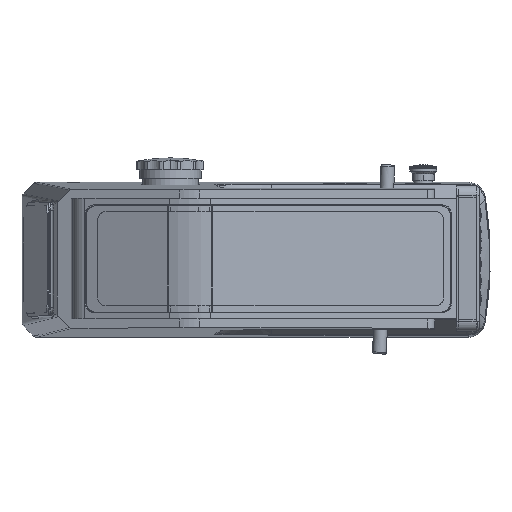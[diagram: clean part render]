
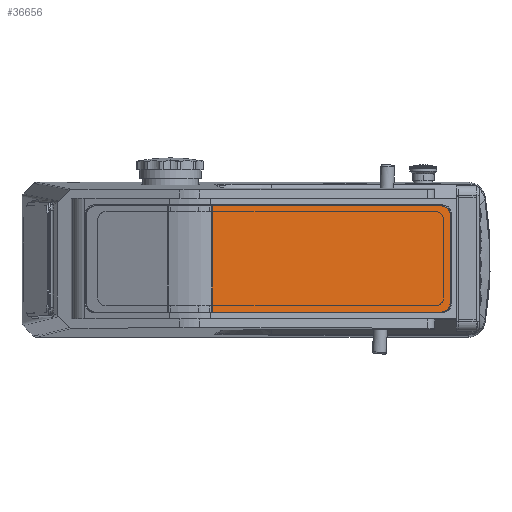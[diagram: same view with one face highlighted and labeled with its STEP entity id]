
A CAD part, top view. The second image highlights one B-rep face of the part: STEP entity #36656.
In plain terms, the highlighted planar face has unit normal (0.177, 0, 0.984) as drawn and (0.177, -0.984, 0) by its records, which use the part's own axes.
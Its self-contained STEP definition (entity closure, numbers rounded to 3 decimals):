
#36387=DIRECTION('',(0.984,0.177,0.));
#36388=VECTOR('',#36387,269.914);
#36389=CARTESIAN_POINT('',(-22.966,-67.873,62.));
#36390=LINE('',#36389,#36388);
#36421=CARTESIAN_POINT('',(242.663,-19.966,-62.));
#36422=CARTESIAN_POINT('',(244.645,-19.608,-62.));
#36423=CARTESIAN_POINT('',(247.763,-19.046,
-61.141));
#36424=CARTESIAN_POINT('',(251.288,-18.41,
-58.68));
#36425=CARTESIAN_POINT('',(253.762,-17.964,
-55.152));
#36426=CARTESIAN_POINT('',(254.638,-17.806,
-52.014));
#36427=CARTESIAN_POINT('',(254.638,-17.806,-50.));
#36429=CARTESIAN_POINT('',(254.638,-17.806,50.));
#36430=CARTESIAN_POINT('',(254.638,-17.806,
52.014));
#36431=CARTESIAN_POINT('',(253.762,-17.964,
55.152));
#36432=CARTESIAN_POINT('',(251.288,-18.41,
58.68));
#36433=CARTESIAN_POINT('',(247.763,-19.046,
61.141));
#36434=CARTESIAN_POINT('',(244.645,-19.608,62.));
#36435=CARTESIAN_POINT('',(242.663,-19.966,62.));
#36437=DIRECTION('',(0.,0.,-1.));
#36438=VECTOR('',#36437,100.);
#36439=CARTESIAN_POINT('',(254.638,-17.806,50.));
#36440=LINE('',#36439,#36438);
#36471=DIRECTION('',(-0.984,-0.177,0.));
#36472=VECTOR('',#36471,269.914);
#36473=CARTESIAN_POINT('',(242.663,-19.966,-62.));
#36474=LINE('',#36473,#36472);
#36535=DIRECTION('',(0.,0.,1.));
#36536=VECTOR('',#36535,124.);
#36537=CARTESIAN_POINT('',(-22.966,-67.873,-62.));
#36538=LINE('',#36537,#36536);
#36549=CARTESIAN_POINT('',(254.638,-17.806,50.));
#36550=CARTESIAN_POINT('',(254.638,-17.806,-50.));
#36551=VERTEX_POINT('',#36549);
#36552=VERTEX_POINT('',#36550);
#36559=VERTEX_POINT('',#36421);
#36565=CARTESIAN_POINT('',(-22.966,-67.873,-62.));
#36567=VERTEX_POINT('',#36565);
#36569=CARTESIAN_POINT('',(242.663,-19.966,62.));
#36571=VERTEX_POINT('',#36569);
#36573=CARTESIAN_POINT('',(-22.966,-67.873,62.));
#36574=VERTEX_POINT('',#36573);
#36639=CARTESIAN_POINT('',(-22.966,-67.873,-62.));
#36640=DIRECTION('',(0.177,-0.984,0.));
#36641=DIRECTION('',(0.,0.,-1.));
#36642=AXIS2_PLACEMENT_3D('',#36639,#36640,#36641);
#36643=PLANE('',#36642);
#36645=ORIENTED_EDGE('',*,*,#36644,.T.);
#36647=ORIENTED_EDGE('',*,*,#36646,.F.);
#36649=ORIENTED_EDGE('',*,*,#36648,.T.);
#36651=ORIENTED_EDGE('',*,*,#36650,.T.);
#36652=ORIENTED_EDGE('',*,*,#36622,.T.);
#36653=ORIENTED_EDGE('',*,*,#36591,.F.);
#36654=EDGE_LOOP('',(#36645,#36647,#36649,#36651,#36652,#36653));
#36655=FACE_OUTER_BOUND('',#36654,.F.);
#36656=ADVANCED_FACE('',(#36655),#36643,.T.);
#36428=B_SPLINE_CURVE_WITH_KNOTS('',3,(#36421,#36422,#36423,#36424,#36425,
#36426,#36427),.UNSPECIFIED.,.F.,.F.,(4,1,1,1,4),(0.,0.25,0.5,0.75,
1.),.UNSPECIFIED.);
#36436=B_SPLINE_CURVE_WITH_KNOTS('',3,(#36429,#36430,#36431,#36432,#36433,
#36434,#36435),.UNSPECIFIED.,.F.,.F.,(4,1,1,1,4),(0.,0.25,0.5,0.75,
1.),.UNSPECIFIED.);
#36591=EDGE_CURVE('',#36551,#36571,#36436,.T.);
#36622=EDGE_CURVE('',#36574,#36571,#36390,.T.);
#36644=EDGE_CURVE('',#36551,#36552,#36440,.T.);
#36646=EDGE_CURVE('',#36559,#36552,#36428,.T.);
#36648=EDGE_CURVE('',#36559,#36567,#36474,.T.);
#36650=EDGE_CURVE('',#36567,#36574,#36538,.T.);
